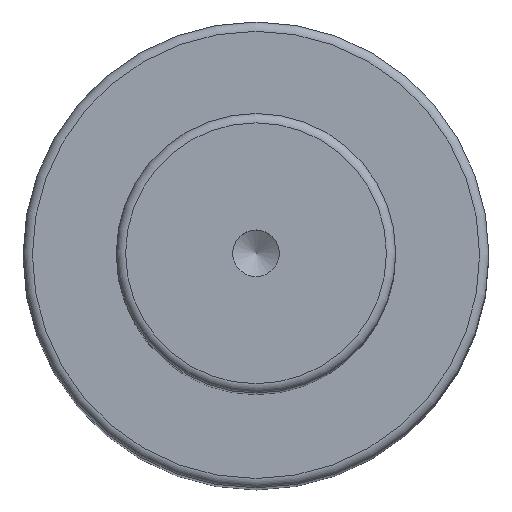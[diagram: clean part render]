
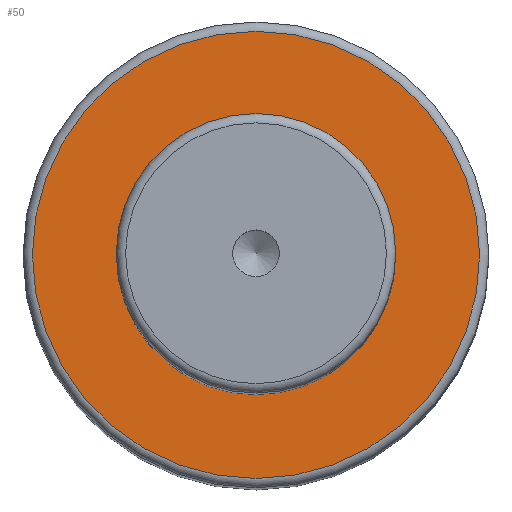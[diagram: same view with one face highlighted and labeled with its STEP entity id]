
A CAD part, top view. The second image highlights one B-rep face of the part: STEP entity #50.
In plain terms, the highlighted planar face has unit normal (0, 0, 1).
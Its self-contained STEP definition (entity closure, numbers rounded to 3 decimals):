
#40=PLANE('',#179);
#50=ADVANCED_FACE('',(#72,#73),#40,.F.);
#72=FACE_BOUND('',#96,.T.);
#73=FACE_BOUND('',#97,.T.);
#96=EDGE_LOOP('',(#118));
#97=EDGE_LOOP('',(#119));
#118=ORIENTED_EDGE('',*,*,#149,.F.);
#119=ORIENTED_EDGE('',*,*,#148,.T.);
#135=VERTEX_POINT('',#256);
#136=VERTEX_POINT('',#259);
#148=EDGE_CURVE('',#135,#135,#159,.T.);
#149=EDGE_CURVE('',#136,#136,#160,.T.);
#159=CIRCLE('',#176,15.);
#160=CIRCLE('',#178,24.);
#176=AXIS2_PLACEMENT_3D('',#255,#213,#214);
#178=AXIS2_PLACEMENT_3D('',#258,#217,#218);
#179=AXIS2_PLACEMENT_3D('',#260,#219,#220);
#213=DIRECTION('',(0.,0.,-1.));
#214=DIRECTION('',(-1.,0.,0.));
#217=DIRECTION('',(0.,0.,-1.));
#218=DIRECTION('',(-1.,0.,0.));
#219=DIRECTION('',(0.,0.,-1.));
#220=DIRECTION('',(-1.,0.,0.));
#255=CARTESIAN_POINT('',(0.,0.,134.));
#256=CARTESIAN_POINT('',(-15.,0.,134.));
#258=CARTESIAN_POINT('',(0.,0.,134.));
#259=CARTESIAN_POINT('',(-24.,0.,134.));
#260=CARTESIAN_POINT('',(15.,0.,134.));
